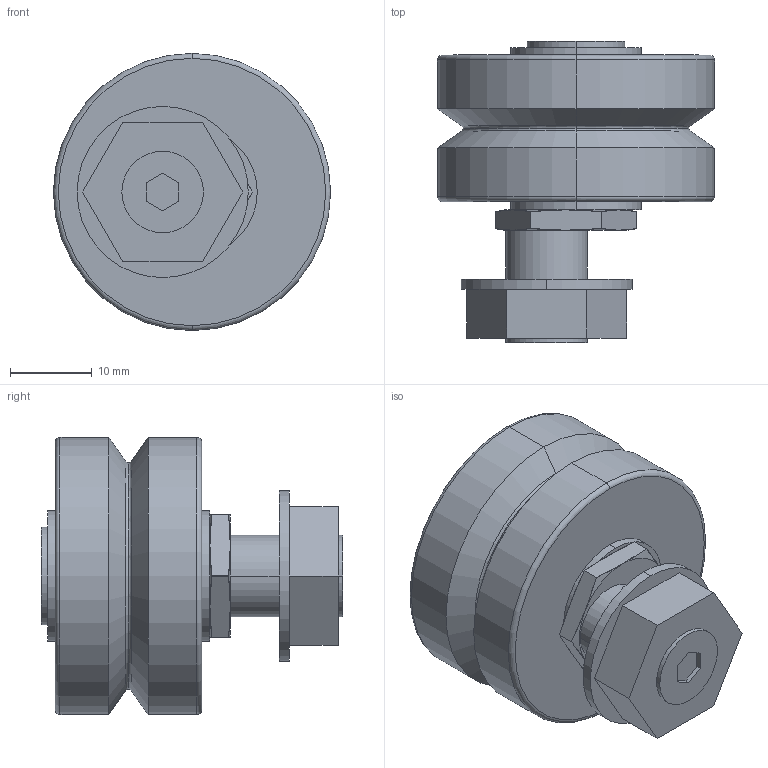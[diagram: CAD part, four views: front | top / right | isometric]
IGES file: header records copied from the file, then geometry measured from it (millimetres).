
Start section: 3D InterOp IGES (Version 21 0 1), Spatial Corp. Copyright (c) 1999-2007.
Global section: file name: RSFJ34DENS.igs; native system: Spatial Corp.; preprocessor: 3D InterOp GENERIC/IGES 3.0; author: Noname; organization: Noname; date: 20220627.163453; units: millimetre
Bounding box: 34 x 37 x 34 mm (x, y, z)
Surface area: 8885 mm2 (no closed solid volume)
Topology: 0 solids, 0 shells, 82 faces, 354 edges, 352 vertices
Faces by surface type: revolution 44, extrusion 38
